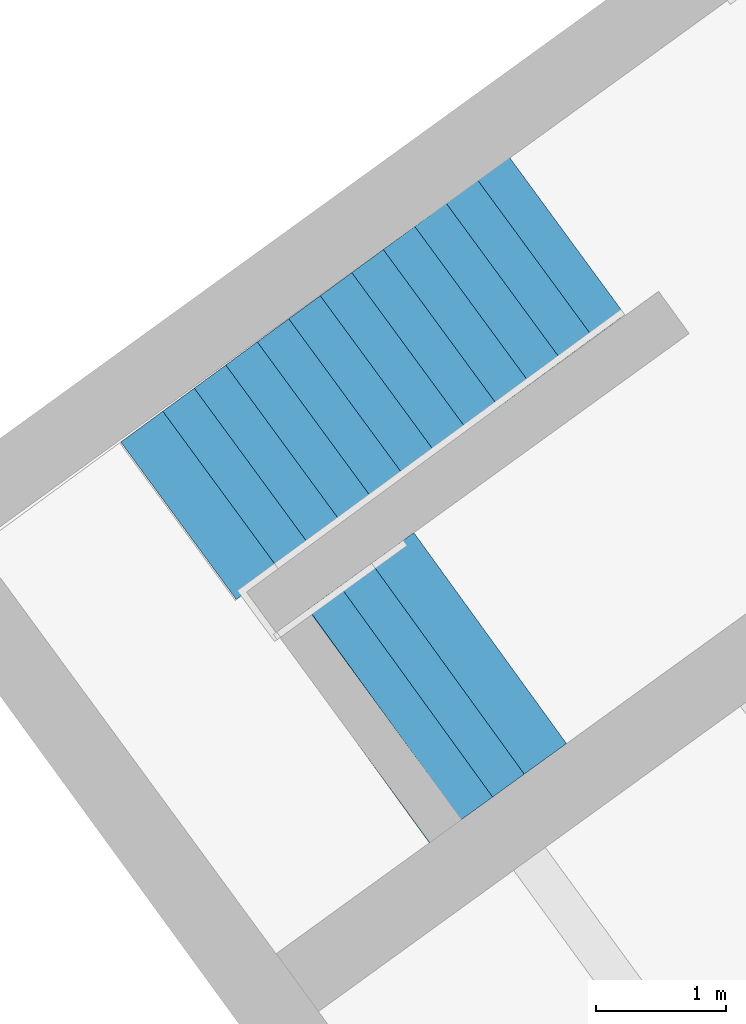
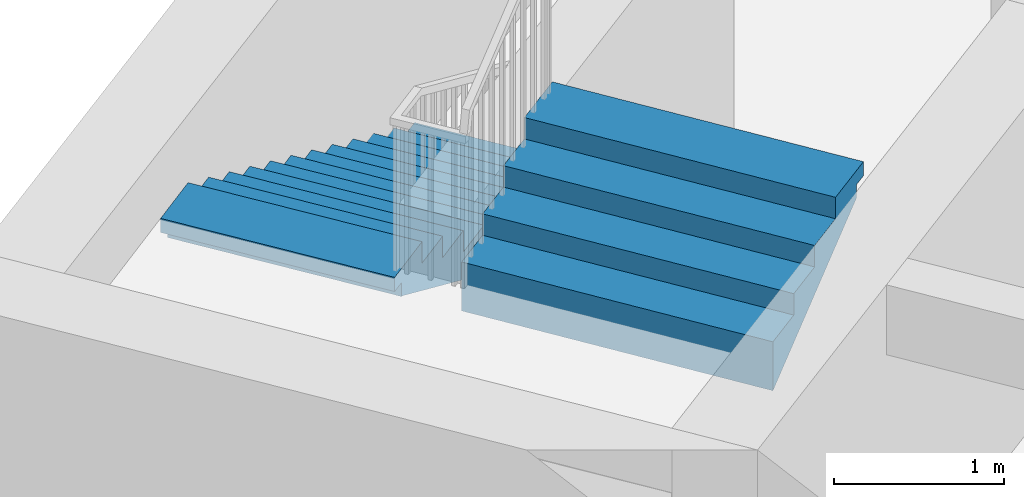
# One storey, part 111 of 112: 2 stair flights, 1 element without a shape of its own.
"""IFC2X3 building model written with IfcOpenShell, lengths in millimetres."""

from ifc_helpers import new_model, entity, si_unit, converted_unit, derived_unit, direction, frame, origin, place, context, subcontext, project, spatial, faceted_brep, material, material_list, type_object, element, aggregate, save


model = new_model("IFC2X3")

# Units and contexts
model_context = context("Model", 3, precision=0.01, world=origin(), true_north=direction((6.123031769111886e-17, 1.0)))
body_context = subcontext(model_context, "Body", "Model", "MODEL_VIEW")
ifc_project = project(units=[si_unit("LENGTHUNIT", "METRE", prefix="MILLI"), si_unit("AREAUNIT", "SQUARE_METRE"), si_unit("VOLUMEUNIT", "CUBIC_METRE"), converted_unit("PLANEANGLEUNIT", "DEGREE", entity("IfcRatioMeasure", 0.017453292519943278), si_unit("PLANEANGLEUNIT", "RADIAN"), dimensions=[0, 0, 0, 0, 0, 0, 0]), si_unit("MASSUNIT", "GRAM", prefix="KILO"), derived_unit("MASSDENSITYUNIT", [(si_unit("MASSUNIT", "GRAM", prefix="KILO"), 1), (si_unit("LENGTHUNIT", "METRE"), -3)]), derived_unit("MOMENTOFINERTIAUNIT", [(si_unit("LENGTHUNIT", "METRE"), 4)]), si_unit("TIMEUNIT", "SECOND"), si_unit("FREQUENCYUNIT", "HERTZ"), si_unit("THERMODYNAMICTEMPERATUREUNIT", "DEGREE_CELSIUS"), derived_unit("THERMALTRANSMITTANCEUNIT", [(si_unit("MASSUNIT", "GRAM", prefix="KILO"), 1), (si_unit("THERMODYNAMICTEMPERATUREUNIT", "KELVIN"), -1), (si_unit("TIMEUNIT", "SECOND"), -3)]), derived_unit("THERMALCONDUCTANCEUNIT", [(si_unit("MASSUNIT", "GRAM", prefix="KILO"), 1), (si_unit("LENGTHUNIT", "METRE"), 1), (si_unit("THERMODYNAMICTEMPERATUREUNIT", "KELVIN"), -1), (si_unit("TIMEUNIT", "SECOND"), -3)]), derived_unit("VOLUMETRICFLOWRATEUNIT", [(si_unit("LENGTHUNIT", "METRE"), 3), (si_unit("TIMEUNIT", "SECOND"), -1)]), derived_unit("MASSFLOWRATEUNIT", [(si_unit("MASSUNIT", "GRAM", prefix="KILO"), 1), (si_unit("TIMEUNIT", "SECOND"), -1)]), derived_unit("ROTATIONALFREQUENCYUNIT", [(si_unit("TIMEUNIT", "SECOND"), -1)]), si_unit("ELECTRICCURRENTUNIT", "AMPERE"), si_unit("ELECTRICVOLTAGEUNIT", "VOLT"), si_unit("POWERUNIT", "WATT"), converted_unit("FORCEUNIT", "KIP", entity("IfcRatioMeasure", 2.088543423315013e-05), si_unit("FORCEUNIT", "NEWTON"), dimensions=[1, 1, -2, 0, 0, 0, 0]), si_unit("ILLUMINANCEUNIT", "LUX"), si_unit("LUMINOUSFLUXUNIT", "LUMEN"), si_unit("LUMINOUSINTENSITYUNIT", "CANDELA"), derived_unit("USERDEFINED", [(si_unit("MASSUNIT", "GRAM", prefix="KILO"), -1), (si_unit("LENGTHUNIT", "METRE"), -2), (si_unit("TIMEUNIT", "SECOND"), 3), (si_unit("LUMINOUSFLUXUNIT", "LUMEN"), 1)]), derived_unit("USERDEFINED", [(si_unit("MASSUNIT", "GRAM", prefix="KILO"), 1), (si_unit("LENGTHUNIT", "METRE"), 3), (si_unit("TIMEUNIT", "SECOND"), -3), (si_unit("ELECTRICCURRENTUNIT", "AMPERE"), -2)]), derived_unit("USERDEFINED", [(si_unit("LENGTHUNIT", "METRE"), 2), (si_unit("TIMEUNIT", "SECOND"), -2)]), derived_unit("SOUNDPOWERUNIT", [(si_unit("MASSUNIT", "GRAM", prefix="KILO"), 1), (si_unit("LENGTHUNIT", "METRE"), 2), (si_unit("TIMEUNIT", "SECOND"), -3)]), derived_unit("SOUNDPRESSUREUNIT", [(si_unit("MASSUNIT", "GRAM", prefix="KILO"), 1), (si_unit("LENGTHUNIT", "METRE"), -1), (si_unit("TIMEUNIT", "SECOND"), -2)]), derived_unit("LINEARVELOCITYUNIT", [(si_unit("LENGTHUNIT", "METRE"), 1), (si_unit("TIMEUNIT", "SECOND"), -1)]), si_unit("PRESSUREUNIT", "PASCAL"), derived_unit("USERDEFINED", [(si_unit("LENGTHUNIT", "METRE"), -2), (si_unit("MASSUNIT", "GRAM", prefix="KILO"), 1), (si_unit("TIMEUNIT", "SECOND"), -2)]), derived_unit("LINEARFORCEUNIT", [(si_unit("MASSUNIT", "GRAM", prefix="KILO"), 1), (si_unit("LENGTHUNIT", "METRE"), 1), (si_unit("TIMEUNIT", "SECOND"), -2), (si_unit("LENGTHUNIT", "METRE"), -1)]), derived_unit("PLANARFORCEUNIT", [(si_unit("MASSUNIT", "GRAM", prefix="KILO"), 1), (si_unit("LENGTHUNIT", "METRE"), 1), (si_unit("TIMEUNIT", "SECOND"), -2), (si_unit("LENGTHUNIT", "METRE"), -2)]), derived_unit("SPECIFICHEATCAPACITYUNIT", [(si_unit("LENGTHUNIT", "METRE"), 2), (si_unit("TIMEUNIT", "SECOND"), -2), (si_unit("THERMODYNAMICTEMPERATUREUNIT", "KELVIN"), -1)]), derived_unit("VAPORPERMEABILITYUNIT", [(si_unit("TIMEUNIT", "SECOND"), 1), (si_unit("LENGTHUNIT", "METRE"), -1)]), derived_unit("DYNAMICVISCOSITYUNIT", [(si_unit("MASSUNIT", "GRAM", prefix="KILO"), 1), (si_unit("LENGTHUNIT", "METRE"), -1), (si_unit("TIMEUNIT", "SECOND"), -1)]), derived_unit("THERMALEXPANSIONCOEFFICIENTUNIT", [(si_unit("THERMODYNAMICTEMPERATUREUNIT", "KELVIN"), -1)])], contexts=[model_context])

# Site, building, storey
site_placement = place(None, frame((0.0, 0.0, 0.0), z_axis=(0.0, 0.0, 1.0), x_axis=(0.8191520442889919, 0.5735764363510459, 0.0)))
site = spatial("IfcSite", under=ifc_project, at=site_placement, Name="Default", CompositionType="ELEMENT")
building_placement = place(site_placement, origin())
building = spatial("IfcBuilding", under=site, at=building_placement, CompositionType="ELEMENT")
storey_placement = place(building_placement, frame((0.0, 0.0, -3600.0)))
storey = spatial("IfcBuildingStorey", under=building, at=storey_placement, Name="0.UG -3.60", CompositionType="ELEMENT", Elevation=-3600.0000000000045)

# Stair, stair flights
stair_placement = place(storey_placement, origin())
stair = element("IfcStair", 1, at=stair_placement, inside=storey, Name="Precast Stair:Stair", ObjectType="Precast Stair:Stair_CJC_KH", ShapeType="NOTDEFINED")
ifc_material_1 = material(Name="Concrete, Cast-in-Place gray")
ifc_material_2 = material(Name="Analytical Wall Surface_CJC")
ifc_material_list = material_list([ifc_material_1, ifc_material_2])
stair_flight_type = type_object("IfcStairFlightType", Name="Monolithic Run:1mm_Tread-175mm_Depth", PredefinedType="STRAIGHT")
stair_flight_1_placement = place(stair_placement, frame((-189785.58562206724, 196027.56477146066, 0.0)))
stair_flight_1 = element("IfcStairFlight", 2, at=stair_flight_1_placement, type_object=stair_flight_type, material=ifc_material_list, Name="Precast Stair:Stair:623964 Run 1", ObjectType="Monolithic Run:1mm_Tread-175mm_Depth", NumberOfRiser=12, NumberOfTreads=12, RiserHeight=0.5023786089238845, TreadLength=0.984251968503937, context=body_context, shape_type="Brep", body=[
    faceted_brep([(3432.0318636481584, 74.45355653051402, 153.12500000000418), (3731.9599259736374, 81.02298798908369, 153.12500000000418), (3699.112768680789, 1580.6632996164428, 153.12500000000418), (3399.18470635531, 1574.093868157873, 153.12500000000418), (3432.0318636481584, 74.45355653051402, 152.1250000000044), (3399.18470635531, 1574.093868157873, 152.1250000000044), (3699.112768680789, 1580.6632996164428, 152.1250000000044), (3731.9599259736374, 81.02298798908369, 152.1250000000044)], [[[0, 1, 2, 3]], [[4, 5, 6, 7]], [[1, 0, 4, 7]], [[2, 1, 7, 6]], [[3, 2, 6, 5]], [[0, 3, 5, 4]]]),
    faceted_brep([(3132.10380132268, 67.88412507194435, 306.25000000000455), (3432.0318636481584, 74.45355653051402, 306.25000000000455), (3399.18470635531, 1574.093868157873, 306.25000000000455), (3099.2566440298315, 1567.5244366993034, 306.25000000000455), (3132.10380132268, 67.88412507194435, 305.2500000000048), (3099.2566440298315, 1567.5244366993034, 305.2500000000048), (3399.18470635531, 1574.093868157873, 305.2500000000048), (3432.0318636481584, 74.45355653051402, 305.2500000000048)], [[[0, 1, 2, 3]], [[4, 5, 6, 7]], [[1, 0, 4, 7]], [[2, 1, 7, 6]], [[3, 2, 6, 5]], [[0, 3, 5, 4]]]),
    faceted_brep([(2832.175738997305, 61.31469361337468, 459.3750000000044), (3132.103801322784, 67.88412507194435, 459.3750000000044), (3099.2566440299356, 1567.5244366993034, 459.3750000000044), (2799.3285817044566, 1560.9550052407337, 459.3750000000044), (2832.175738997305, 61.31469361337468, 458.3750000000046), (2799.3285817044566, 1560.9550052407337, 458.3750000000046), (3099.2566440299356, 1567.5244366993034, 458.3750000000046), (3132.103801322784, 67.88412507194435, 458.3750000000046)], [[[0, 1, 2, 3]], [[4, 5, 6, 7]], [[1, 0, 4, 7]], [[2, 1, 7, 6]], [[3, 2, 6, 5]], [[0, 3, 5, 4]]]),
    faceted_brep([(2532.247676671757, 54.74526215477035, 612.5000000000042), (2832.175738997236, 61.314693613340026, 612.5000000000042), (2799.3285817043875, 1560.9550052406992, 612.5000000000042), (2499.4005193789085, 1554.3855737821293, 612.5000000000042), (2532.247676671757, 54.74526215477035, 611.5000000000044), (2499.4005193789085, 1554.3855737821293, 611.5000000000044), (2799.3285817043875, 1560.9550052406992, 611.5000000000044), (2832.175738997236, 61.314693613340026, 611.5000000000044)], [[[0, 1, 2, 3]], [[4, 5, 6, 7]], [[1, 0, 4, 7]], [[2, 1, 7, 6]], [[3, 2, 6, 5]], [[0, 3, 5, 4]]]),
    faceted_brep([(2232.3196143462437, 48.175830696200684, 765.6250000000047), (2532.2476766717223, 54.74526215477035, 765.6250000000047), (2499.400519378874, 1554.3855737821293, 765.6250000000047), (2199.4724570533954, 1547.8161423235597, 765.6250000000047), (2232.3196143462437, 48.175830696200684, 764.6250000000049), (2199.4724570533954, 1547.8161423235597, 764.6250000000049), (2499.400519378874, 1554.3855737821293, 764.6250000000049), (2532.2476766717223, 54.74526215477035, 764.6250000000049)], [[[0, 1, 2, 3]], [[4, 5, 6, 7]], [[1, 0, 4, 7]], [[2, 1, 7, 6]], [[3, 2, 6, 5]], [[0, 3, 5, 4]]]),
    faceted_brep([(1932.3915520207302, 41.60639923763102, 918.7500000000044), (2232.319614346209, 48.175830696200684, 918.7500000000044), (2199.472457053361, 1547.8161423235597, 918.7500000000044), (1899.5443947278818, 1541.24671086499, 918.7500000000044), (1932.3915520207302, 41.60639923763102, 917.7500000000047), (1899.5443947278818, 1541.24671086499, 917.7500000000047), (2199.472457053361, 1547.8161423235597, 917.7500000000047), (2232.319614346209, 48.175830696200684, 917.7500000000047)], [[[0, 1, 2, 3]], [[4, 5, 6, 7]], [[1, 0, 4, 7]], [[2, 1, 7, 6]], [[3, 2, 6, 5]], [[0, 3, 5, 4]]]),
    faceted_brep([(1632.4634896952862, 35.03696777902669, 1071.8750000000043), (1932.391552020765, 41.606399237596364, 1071.8750000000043), (1899.5443947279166, 1541.2467108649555, 1071.8750000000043), (1599.6163324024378, 1534.6772794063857, 1071.8750000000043), (1632.4634896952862, 35.03696777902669, 1070.8750000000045), (1599.6163324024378, 1534.6772794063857, 1070.8750000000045), (1899.5443947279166, 1541.2467108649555, 1070.8750000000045), (1932.391552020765, 41.606399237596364, 1070.8750000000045)], [[[0, 1, 2, 3]], [[4, 5, 6, 7]], [[1, 0, 4, 7]], [[2, 1, 7, 6]], [[3, 2, 6, 5]], [[0, 3, 5, 4]]]),
    faceted_brep([(1332.5354273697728, 28.46753632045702, 1225.0), (1632.4634896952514, 35.03696777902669, 1225.0), (1599.616332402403, 1534.6772794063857, 1225.0), (1299.6882700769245, 1528.107847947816, 1225.0), (1332.5354273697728, 28.46753632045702, 1224.0), (1299.6882700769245, 1528.107847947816, 1224.0), (1599.616332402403, 1534.6772794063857, 1224.0), (1632.4634896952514, 35.03696777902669, 1224.0)], [[[0, 1, 2, 3]], [[4, 5, 6, 7]], [[1, 0, 4, 7]], [[2, 1, 7, 6]], [[3, 2, 6, 5]], [[0, 3, 5, 4]]]),
    faceted_brep([(1032.6073650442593, 21.89810486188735, 1378.1250000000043), (1332.535427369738, 28.46753632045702, 1378.1250000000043), (1299.6882700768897, 1528.107847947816, 1378.1250000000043), (999.760207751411, 1521.5384164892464, 1378.1250000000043), (1032.6073650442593, 21.89810486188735, 1377.1250000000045), (999.760207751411, 1521.5384164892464, 1377.1250000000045), (1299.6882700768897, 1528.107847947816, 1377.1250000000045), (1332.535427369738, 28.46753632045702, 1377.1250000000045)], [[[0, 1, 2, 3]], [[4, 5, 6, 7]], [[1, 0, 4, 7]], [[2, 1, 7, 6]], [[3, 2, 6, 5]], [[0, 3, 5, 4]]]),
    faceted_brep([(732.6793027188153, 15.328673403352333, 1531.250000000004), (1032.607365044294, 21.898104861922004, 1531.250000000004), (999.7602077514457, 1521.538416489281, 1531.250000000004), (699.8321454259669, 1514.9689850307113, 1531.250000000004), (732.6793027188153, 15.328673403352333, 1530.2500000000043), (699.8321454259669, 1514.9689850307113, 1530.2500000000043), (999.7602077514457, 1521.538416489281, 1530.2500000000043), (1032.607365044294, 21.898104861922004, 1530.2500000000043)], [[[0, 1, 2, 3]], [[4, 5, 6, 7]], [[1, 0, 4, 7]], [[2, 1, 7, 6]], [[3, 2, 6, 5]], [[0, 3, 5, 4]]]),
    faceted_brep([(432.7512403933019, 8.75924194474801, 1684.375000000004), (732.6793027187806, 15.32867340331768, 1684.375000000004), (699.8321454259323, 1514.9689850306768, 1684.375000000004), (399.90408310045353, 1508.3995535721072, 1684.375000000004), (432.7512403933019, 8.75924194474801, 1683.3750000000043), (399.90408310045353, 1508.3995535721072, 1683.3750000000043), (699.8321454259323, 1514.9689850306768, 1683.3750000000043), (732.6793027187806, 15.32867340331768, 1683.3750000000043)], [[[0, 1, 2, 3]], [[4, 5, 6, 7]], [[1, 0, 4, 7]], [[2, 1, 7, 6]], [[3, 2, 6, 5]], [[0, 3, 5, 4]]]),
    faceted_brep([(32.84715729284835, 0.0, 1837.5000000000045), (432.75124039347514, 8.75924194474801, 1837.5000000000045), (399.9040831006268, 1508.3995535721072, 1837.5000000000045), (99.97602077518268, 1501.8301221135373, 1837.5000000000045), (0.0, 1499.640311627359, 1837.5000000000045), (32.84715729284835, 0.0, 1836.5000000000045), (0.0, 1499.640311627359, 1836.5000000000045), (99.97602077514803, 1501.8301221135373, 1836.5000000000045), (399.9040831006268, 1508.3995535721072, 1836.5000000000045), (432.75124039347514, 8.75924194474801, 1836.5000000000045)], [[[0, 1, 2, 3, 4]], [[5, 6, 7, 8, 9]], [[1, 0, 5, 9]], [[2, 1, 9, 8]], [[3, 2, 8, 7]], [[0, 4, 6, 5]], [[4, 3, 7, 6]]]),
    faceted_brep([(3432.0318636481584, 74.45355653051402, 152.1250000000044), (3731.9599259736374, 81.02298798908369, 152.1250000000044), (3699.112768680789, 1580.6632996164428, 152.1250000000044), (3399.18470635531, 1574.093868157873, 152.1250000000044), (3432.0318636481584, 74.45355653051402, 0.0), (3731.9599259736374, 81.02298798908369, 0.0), (3699.112768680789, 1580.6632996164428, 0.0), (3399.18470635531, 1574.093868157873, 0.0), (3132.10380132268, 67.88412507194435, 305.2500000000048), (3432.0318636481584, 74.45355653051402, 305.2500000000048), (3399.18470635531, 1574.093868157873, 305.2500000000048), (3099.2566440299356, 1567.5244366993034, 305.2500000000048), (3132.10380132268, 67.88412507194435, 108.77205354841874), (3345.1571319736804, 72.55070825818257, 0.0), (3312.309974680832, 1572.1910198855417, 0.0), (3099.2566440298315, 1567.5244366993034, 108.77205354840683), (2832.175738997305, 61.31469361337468, 458.3750000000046), (3132.103801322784, 67.88412507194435, 458.3750000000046), (3099.2566440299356, 1567.5244366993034, 458.3750000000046), (2799.3285817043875, 1560.9550052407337, 458.3750000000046), (2832.175738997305, 61.31469361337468, 261.8970535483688), (2799.3285817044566, 1560.9550052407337, 261.8970535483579), (2532.247676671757, 54.74526215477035, 611.5000000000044), (2832.175738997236, 61.314693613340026, 611.5000000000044), (2799.3285817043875, 1560.9550052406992, 611.5000000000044), (2499.4005193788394, 1554.3855737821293, 611.5000000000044), (2532.247676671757, 54.74526215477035, 415.0220535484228), (2499.4005193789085, 1554.3855737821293, 415.0220535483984), (2232.3196143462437, 48.175830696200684, 764.6250000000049), (2532.2476766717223, 54.74526215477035, 764.6250000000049), (2499.400519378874, 1554.3855737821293, 764.6250000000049), (2199.472457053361, 1547.8161423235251, 764.6250000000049), (2232.3196143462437, 48.175830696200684, 568.147053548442), (2199.4724570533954, 1547.8161423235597, 568.1470535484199), (1932.3915520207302, 41.60639923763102, 917.7500000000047), (2232.319614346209, 48.175830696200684, 917.7500000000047), (2199.472457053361, 1547.8161423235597, 917.7500000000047), (1899.5443947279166, 1541.24671086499, 917.7500000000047), (1932.3915520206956, 41.60639923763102, 721.2720535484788), (1899.5443947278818, 1541.24671086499, 721.2720535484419), (1632.4634896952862, 35.03696777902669, 1070.8750000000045), (1932.391552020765, 41.606399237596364, 1070.8750000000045), (1899.5443947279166, 1541.2467108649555, 1070.8750000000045), (1599.616332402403, 1534.677279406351, 1070.8750000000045), (1632.4634896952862, 35.03696777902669, 874.3970535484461), (1599.6163324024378, 1534.6772794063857, 874.3970535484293), (1332.5354273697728, 28.46753632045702, 1224.0), (1632.4634896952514, 35.03696777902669, 1224.0), (1599.616332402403, 1534.6772794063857, 1224.0), (1299.6882700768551, 1528.1078479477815, 1224.0), (1332.5354273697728, 28.46753632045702, 1027.5220535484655), (1299.6882700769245, 1528.107847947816, 1027.5220535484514), (1032.6073650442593, 21.89810486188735, 1377.1250000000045), (1332.535427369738, 28.46753632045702, 1377.1250000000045), (1299.6882700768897, 1528.107847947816, 1377.1250000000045), (999.7602077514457, 1521.5384164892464, 1377.1250000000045), (1032.6073650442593, 21.89810486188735, 1180.6470535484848), (999.760207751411, 1521.5384164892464, 1180.6470535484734), (732.6793027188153, 15.328673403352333, 1530.2500000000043), (1032.607365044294, 21.898104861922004, 1530.2500000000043), (999.7602077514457, 1521.538416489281, 1530.2500000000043), (699.8321454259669, 1514.9689850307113, 1530.2500000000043), (732.6793027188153, 15.328673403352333, 1333.7720535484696), (699.8321454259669, 1514.9689850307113, 1333.7720535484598), (432.7512403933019, 8.75924194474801, 1683.3750000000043), (732.6793027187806, 15.32867340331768, 1683.3750000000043), (699.8321454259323, 1514.9689850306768, 1683.3750000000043), (399.90408310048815, 1508.3995535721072, 1683.3750000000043), (432.7512403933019, 8.75924194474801, 1486.8970535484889), (399.90408310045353, 1508.3995535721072, 1486.8970535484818), (432.7512403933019, 8.75924194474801, 1836.5000000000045), (399.90408310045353, 1508.3995535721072, 1836.5000000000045), (0.0, 1499.640311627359, 1836.5000000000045), (32.84715729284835, 0.0, 1836.5000000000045), (32.84715729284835, 0.0, 1736.5000000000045), (132.82317806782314, 2.1898104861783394, 1736.5000000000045), (132.82317806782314, 2.1898104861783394, 1636.5000000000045), (139.72187322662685, 2.3409150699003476, 1636.5000000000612), (106.87471593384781, 1501.9812266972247, 1636.5000000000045), (99.97602077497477, 1501.8301221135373, 1636.5000000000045), (99.97602077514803, 1501.8301221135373, 1736.5000000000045), (0.0, 1499.640311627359, 1736.5000000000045)], [[[0, 1, 2, 3]], [[1, 0, 4, 5]], [[2, 1, 5, 6]], [[3, 2, 6, 7]], [[8, 9, 10, 11]], [[4, 0, 9, 8, 12, 13]], [[0, 3, 10, 9]], [[3, 7, 14, 15, 11, 10]], [[16, 17, 18, 19]], [[17, 16, 20, 12, 8]], [[8, 11, 18, 17]], [[19, 18, 11, 15, 21]], [[22, 23, 24, 25]], [[23, 22, 26, 20, 16]], [[16, 19, 24, 23]], [[25, 24, 19, 21, 27]], [[28, 29, 30, 31]], [[29, 28, 32, 26, 22]], [[22, 25, 30, 29]], [[31, 30, 25, 27, 33]], [[34, 35, 36, 37]], [[35, 34, 38, 32, 28]], [[28, 31, 36, 35]], [[37, 36, 31, 33, 39]], [[40, 41, 42, 43]], [[41, 40, 44, 38, 34]], [[34, 37, 42, 41]], [[43, 42, 37, 39, 45]], [[46, 47, 48, 49]], [[47, 46, 50, 44, 40]], [[40, 43, 48, 47]], [[49, 48, 43, 45, 51]], [[52, 53, 54, 55]], [[53, 52, 56, 50, 46]], [[46, 49, 54, 53]], [[55, 54, 49, 51, 57]], [[58, 59, 60, 61]], [[59, 58, 62, 56, 52]], [[52, 55, 60, 59]], [[61, 60, 55, 57, 63]], [[64, 65, 66, 67]], [[65, 64, 68, 62, 58]], [[58, 61, 66, 65]], [[67, 66, 61, 63, 69]], [[70, 71, 72, 73]], [[64, 70, 73, 74, 75, 76, 77, 68]], [[64, 67, 71, 70]], [[72, 71, 67, 69, 78, 79, 80, 81]], [[79, 76, 75, 80]], [[5, 4, 13, 14, 7, 6]], [[77, 78, 69, 63, 57, 51, 45, 39, 33, 27, 21, 15, 14, 13, 12, 20, 26, 32, 38, 44, 50, 56, 62, 68]], [[81, 80, 75, 74]], [[81, 74, 73, 72]], [[78, 77, 76, 79]]]),
])
stair_flight_2_placement = place(stair_placement, frame((-189641.43536491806, 193645.8362711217, 0.0)))
stair_flight_2 = element("IfcStairFlight", 3, at=stair_flight_2_placement, type_object=stair_flight_type, material=ifc_material_list, Name="Precast Stair:Stair:623964 Run 2", ObjectType="Monolithic Run:1mm_Tread-175mm_Depth", NumberOfRiser=4, NumberOfTreads=4, RiserHeight=0.5023786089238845, TreadLength=0.984251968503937, context=body_context, shape_type="Brep", body=[
    faceted_brep([(299.96282344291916, 2004.4749258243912, 1990.6250000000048), (0.0, 1999.7521562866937, 1990.6250000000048), (31.48513025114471, 0.0, 1990.6250000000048), (331.4479536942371, 4.722769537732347, 1990.6250000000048), (299.96282344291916, 2004.4749258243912, 1989.6250000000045), (331.4479536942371, 4.722769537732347, 1989.6250000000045), (31.48513025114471, 0.0, 1989.6250000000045), (0.0, 1999.7521562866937, 1989.6250000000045)], [[[0, 1, 2, 3]], [[4, 5, 6, 7]], [[1, 0, 4, 7]], [[2, 1, 7, 6]], [[3, 2, 6, 5]], [[0, 3, 5, 4]]]),
    faceted_brep([(599.9256468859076, 2009.1976953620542, 2143.7500000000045), (299.96282344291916, 2004.4749258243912, 2143.7500000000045), (331.4479536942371, 4.722769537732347, 2143.7500000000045), (631.4107771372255, 9.445539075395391, 2143.7500000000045), (599.9256468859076, 2009.1976953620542, 2142.7500000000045), (631.4107771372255, 9.445539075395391, 2142.7500000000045), (331.4479536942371, 4.722769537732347, 2142.7500000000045), (299.96282344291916, 2004.4749258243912, 2142.7500000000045)], [[[0, 1, 2, 3]], [[4, 5, 6, 7]], [[1, 0, 4, 7]], [[2, 1, 7, 6]], [[3, 2, 6, 5]], [[0, 3, 5, 4]]]),
    faceted_brep([(899.8884703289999, 2013.9204648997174, 2296.8750000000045), (599.9256468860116, 2009.1976953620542, 2296.8750000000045), (631.4107771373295, 9.445539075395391, 2296.8750000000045), (931.373600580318, 14.168308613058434, 2296.8750000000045), (899.8884703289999, 2013.9204648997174, 2295.8750000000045), (931.373600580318, 14.168308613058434, 2295.8750000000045), (631.4107771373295, 9.445539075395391, 2295.8750000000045), (599.9256468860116, 2009.1976953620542, 2295.8750000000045)], [[[0, 1, 2, 3]], [[4, 5, 6, 7]], [[1, 0, 4, 7]], [[2, 1, 7, 6]], [[3, 2, 6, 5]], [[0, 3, 5, 4]]]),
    faceted_brep([(1299.8389015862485, 2020.2174909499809, 2450.0), (899.8884703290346, 2013.920464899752, 2450.0), (931.3736005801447, 14.168308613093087, 2450.0), (1331.3240318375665, 20.46533466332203, 2450.0), (1299.8389015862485, 2020.2174909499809, 2449.0), (1331.3240318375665, 20.46533466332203, 2449.0), (931.3736005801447, 14.168308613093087, 2449.0), (899.8884703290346, 2013.920464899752, 2449.0)], [[[0, 1, 2, 3]], [[4, 5, 6, 7]], [[1, 0, 4, 7]], [[2, 1, 7, 6]], [[3, 2, 6, 5]], [[0, 3, 5, 4]]]),
    faceted_brep([(299.96282344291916, 2004.4749258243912, 1989.6250000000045), (0.0, 1999.7521562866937, 1989.6250000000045), (31.48513025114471, 0.0, 1989.6250000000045), (331.4479536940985, 4.722769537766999, 1989.6250000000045), (299.9628234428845, 2004.4749258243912, 1793.1470535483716), (0.0, 1999.7521562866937, 1640.022053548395), (31.48513025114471, 0.0, 1640.022053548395), (331.4479536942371, 4.722769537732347, 1793.147053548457), (599.9256468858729, 2009.1976953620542, 2142.7500000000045), (299.96282344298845, 2004.4749258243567, 2142.7500000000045), (331.4479536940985, 4.722769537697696, 2142.7500000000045), (631.4107771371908, 9.445539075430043, 2142.7500000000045), (599.9256468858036, 2009.1976953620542, 1946.2720535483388), (631.4107771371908, 9.445539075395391, 1946.272053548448), (899.8884703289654, 2013.9204648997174, 2295.8750000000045), (599.9256468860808, 2009.1976953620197, 2295.8750000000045), (631.4107771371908, 9.44553907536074, 2295.8750000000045), (931.3736005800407, 14.168308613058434, 2295.8750000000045), (899.8884703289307, 2013.9204648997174, 2099.39705354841), (931.3736005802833, 14.168308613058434, 2099.3970535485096), (899.8884703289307, 2013.9204648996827, 2449.0), (931.3736005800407, 14.168308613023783, 2449.0), (1331.324031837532, 20.46533466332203, 2449.0), (1299.838901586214, 2020.2174909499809, 2449.0), (1299.8389015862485, 2020.2174909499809, 2349.0), (1199.851293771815, 2018.6432344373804, 2349.0), (1199.8512937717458, 2018.6432344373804, 2252.5220535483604), (1231.336424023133, 18.89107815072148, 2252.5220535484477), (1231.336424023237, 18.89107815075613, 2349.0), (1331.3240318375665, 20.465334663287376, 2349.0)], [[[0, 1, 2, 3]], [[1, 0, 4, 5]], [[2, 1, 5, 6]], [[3, 2, 6, 7]], [[8, 9, 10, 11]], [[9, 8, 12, 4, 0]], [[10, 9, 0, 3]], [[11, 10, 3, 7, 13]], [[14, 15, 16, 17]], [[15, 14, 18, 12, 8]], [[16, 15, 8, 11]], [[17, 16, 11, 13, 19]], [[20, 21, 22, 23]], [[20, 23, 24, 25, 26, 18, 14]], [[21, 20, 14, 17]], [[22, 21, 17, 19, 27, 28, 29]], [[27, 26, 25, 28]], [[5, 4, 12, 18, 26, 27, 19, 13, 7, 6]], [[29, 28, 25, 24]], [[29, 24, 23, 22]]]),
])
aggregate(stair, [stair_flight_1, stair_flight_2])

save(model, "model.ifc")
